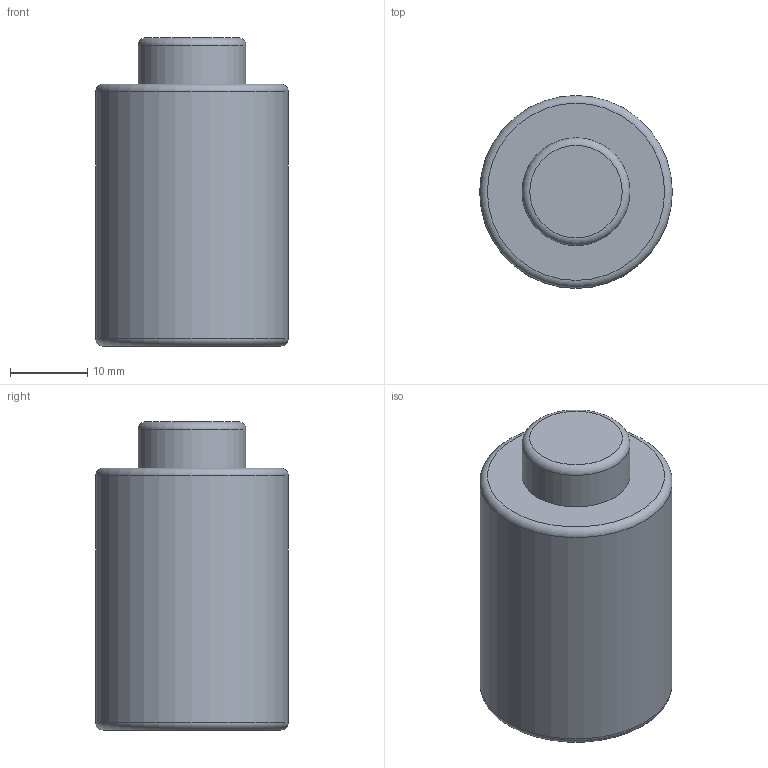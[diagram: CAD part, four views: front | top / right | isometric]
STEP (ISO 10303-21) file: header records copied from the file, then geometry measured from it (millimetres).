
FILE_DESCRIPTION(/* description */ (''),/* implementation_level */ '2;1');
FILE_NAME(/* name */ 'NV5-SMLX.25x5.stp',/* time_stamp */ '2018-08-31T16:08:38+02:00',/* author */ (''),/* organization */ (''),/* preprocessor_version */ 'ST-DEVELOPER v16',/* originating_system */ 'SIEMENS PLM Software NX 10.0',/* authorisation */ '');
FILE_SCHEMA (('AUTOMOTIVE_DESIGN { 1 0 10303 214 3 1 1 1 }'));
Length unit declared in the file: millimetre
Products named in the file (1): NV5-SMLX.25x5
Bounding box: 25 x 25 x 40 mm (x, y, z)
Volume: 17345.3 mm3; surface area: 4004.4 mm2
Topology: 1 solids, 1 shells, 10 faces, 18 edges, 11 vertices
Faces by surface type: cylinder 3, torus 3, plane 3, cone 1
Full cylindrical faces by diameter (mm): 5 x1, 14 x1, 25 x1
Entity records: 222 total; most frequent: DIRECTION 40, CARTESIAN_POINT 30, AXIS2_PLACEMENT_3D 20, FACE_BOUND 18, EDGE_LOOP 18, ORIENTED_EDGE 18, ADVANCED_FACE 10, VERTEX_POINT 10
